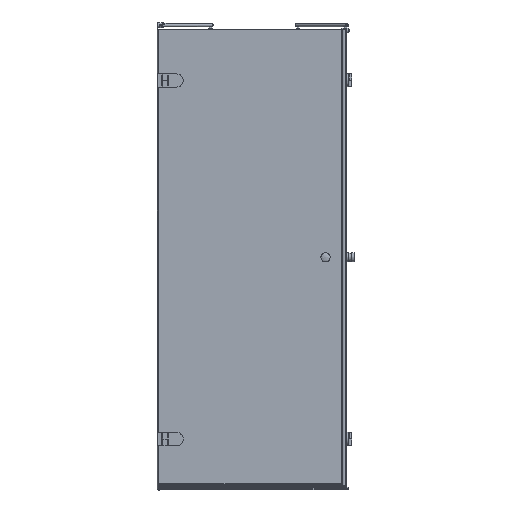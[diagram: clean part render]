
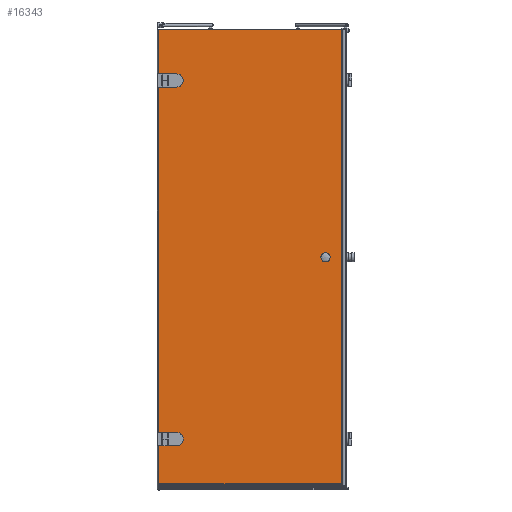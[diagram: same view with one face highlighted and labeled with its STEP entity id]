
A CAD part, front view. The second image highlights one B-rep face of the part: STEP entity #16343.
In plain terms, the highlighted planar face has unit normal (0, -1, 0).
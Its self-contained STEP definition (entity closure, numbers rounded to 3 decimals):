
#810=LINE($,#25615,#2488);
#813=LINE($,#25620,#2491);
#815=LINE($,#25626,#2493);
#860=LINE($,#25743,#2538);
#863=LINE($,#25748,#2541);
#865=LINE($,#25754,#2543);
#887=LINE($,#25813,#2565);
#933=LINE($,#26033,#2611);
#934=LINE($,#26035,#2612);
#935=LINE($,#26036,#2613);
#2488=VECTOR($,#20145,52.);
#2491=VECTOR($,#20150,23.);
#2493=VECTOR($,#20158,23.);
#2538=VECTOR($,#20269,52.);
#2541=VECTOR($,#20274,23.);
#2543=VECTOR($,#20282,23.);
#2565=VECTOR($,#20338,1875.4);
#2611=VECTOR($,#20486,753.4);
#2612=VECTOR($,#20487,1875.4);
#2613=VECTOR($,#20488,753.4);
#3830=FACE_BOUND($,#5261,.T.);
#3831=FACE_BOUND($,#5262,.T.);
#3832=FACE_BOUND($,#5263,.T.);
#5261=EDGE_LOOP($,(#12108,#12109,#12110,#12111));
#5262=EDGE_LOOP($,(#12112,#12113,#12114,#12115));
#5263=EDGE_LOOP($,(#12116,#12117,#12118,#12119));
#5953=CIRCLE($,#17413,26.);
#5965=CIRCLE($,#17450,26.);
#6926=VERTEX_POINT($,#25612);
#6927=VERTEX_POINT($,#25614);
#6928=VERTEX_POINT($,#25618);
#6929=VERTEX_POINT($,#25622);
#6967=VERTEX_POINT($,#25740);
#6968=VERTEX_POINT($,#25742);
#6969=VERTEX_POINT($,#25746);
#6970=VERTEX_POINT($,#25750);
#6987=VERTEX_POINT($,#25806);
#6990=VERTEX_POINT($,#25811);
#7054=VERTEX_POINT($,#26032);
#7055=VERTEX_POINT($,#26034);
#8690=EDGE_CURVE($,#6926,#6927,#810,.T.);
#8693=EDGE_CURVE($,#6928,#6926,#813,.T.);
#8695=EDGE_CURVE($,#6929,#6928,#5953,.T.);
#8696=EDGE_CURVE($,#6927,#6929,#815,.T.);
#8752=EDGE_CURVE($,#6967,#6968,#860,.T.);
#8755=EDGE_CURVE($,#6969,#6967,#863,.T.);
#8757=EDGE_CURVE($,#6970,#6969,#5965,.T.);
#8758=EDGE_CURVE($,#6968,#6970,#865,.T.);
#8786=EDGE_CURVE($,#6990,#6987,#887,.T.);
#8865=EDGE_CURVE($,#6990,#7054,#933,.T.);
#8866=EDGE_CURVE($,#7055,#7054,#934,.T.);
#8867=EDGE_CURVE($,#6987,#7055,#935,.T.);
#12108=ORIENTED_EDGE($,*,*,#8690,.F.);
#12109=ORIENTED_EDGE($,*,*,#8693,.F.);
#12110=ORIENTED_EDGE($,*,*,#8695,.F.);
#12111=ORIENTED_EDGE($,*,*,#8696,.F.);
#12112=ORIENTED_EDGE($,*,*,#8752,.F.);
#12113=ORIENTED_EDGE($,*,*,#8755,.F.);
#12114=ORIENTED_EDGE($,*,*,#8757,.F.);
#12115=ORIENTED_EDGE($,*,*,#8758,.F.);
#12116=ORIENTED_EDGE($,*,*,#8786,.F.);
#12117=ORIENTED_EDGE($,*,*,#8865,.T.);
#12118=ORIENTED_EDGE($,*,*,#8866,.F.);
#12119=ORIENTED_EDGE($,*,*,#8867,.F.);
#14700=PLANE($,#17519);
#16343=ADVANCED_FACE($,(#3830,#3831,#3832),#14700,.F.);
#17413=AXIS2_PLACEMENT_3D($,#25624,#20154,#20155);
#17450=AXIS2_PLACEMENT_3D($,#25752,#20278,#20279);
#17519=AXIS2_PLACEMENT_3D($,#26031,#20484,#20485);
#20145=DIRECTION($,(0.,0.,-1.));
#20150=DIRECTION($,(-1.,0.,0.));
#20154=DIRECTION('center_axis',(0.,-1.,0.));
#20155=DIRECTION('ref_axis',(0.,0.,
-1.));
#20158=DIRECTION($,(1.,0.,0.));
#20269=DIRECTION($,(0.,0.,-1.));
#20274=DIRECTION($,(-1.,0.,0.));
#20278=DIRECTION('center_axis',(0.,-1.,0.));
#20279=DIRECTION('ref_axis',(0.,0.,
-1.));
#20282=DIRECTION($,(1.,0.,0.));
#20338=DIRECTION($,(0.,0.,-1.));
#20484=DIRECTION('center_axis',(0.,1.,0.));
#20485=DIRECTION('ref_axis',(-1.,0.,0.));
#20486=DIRECTION($,(-1.,0.,0.));
#20487=DIRECTION($,(0.,0.,1.));
#20488=DIRECTION($,(-1.,0.,0.));
#25612=CARTESIAN_POINT('',(1825.794,53.989,-199.813));
#25614=CARTESIAN_POINT('',(1825.794,53.989,-251.813));
#25615=CARTESIAN_POINT($,(1825.794,53.989,-307.813));
#25618=CARTESIAN_POINT('',(1848.794,53.989,-199.813));
#25620=CARTESIAN_POINT($,(2190.794,53.989,-199.813));
#25622=CARTESIAN_POINT('',(1848.794,53.989,-251.813));
#25624=CARTESIAN_POINT('Origin',(1848.794,53.989,-225.813));
#25626=CARTESIAN_POINT($,(2179.294,53.989,-251.813));
#25740=CARTESIAN_POINT('',(1825.794,53.989,1280.187));
#25742=CARTESIAN_POINT('',(1825.794,53.989,1228.187));
#25743=CARTESIAN_POINT($,(1825.794,53.989,432.187));
#25746=CARTESIAN_POINT('',(1848.794,53.989,1280.187));
#25748=CARTESIAN_POINT($,(2190.794,53.989,1280.187));
#25750=CARTESIAN_POINT('',(1848.794,53.989,1228.187));
#25752=CARTESIAN_POINT('Origin',(1848.794,53.989,1254.187));
#25754=CARTESIAN_POINT($,(2179.294,53.989,1228.187));
#25806=CARTESIAN_POINT('',(2528.194,53.989,-411.213));
#25811=CARTESIAN_POINT('',(2528.194,53.989,1464.187));
#25813=CARTESIAN_POINT($,(2528.194,53.989,1464.187));
#26031=CARTESIAN_POINT('Origin',(2532.794,53.989,-415.813));
#26032=CARTESIAN_POINT('',(1774.794,53.989,1464.187));
#26033=CARTESIAN_POINT($,(2532.794,53.989,1464.187));
#26034=CARTESIAN_POINT('',(1774.794,53.989,-411.213));
#26035=CARTESIAN_POINT($,(1774.794,53.989,-415.813));
#26036=CARTESIAN_POINT($,(2542.794,53.989,-411.213));
